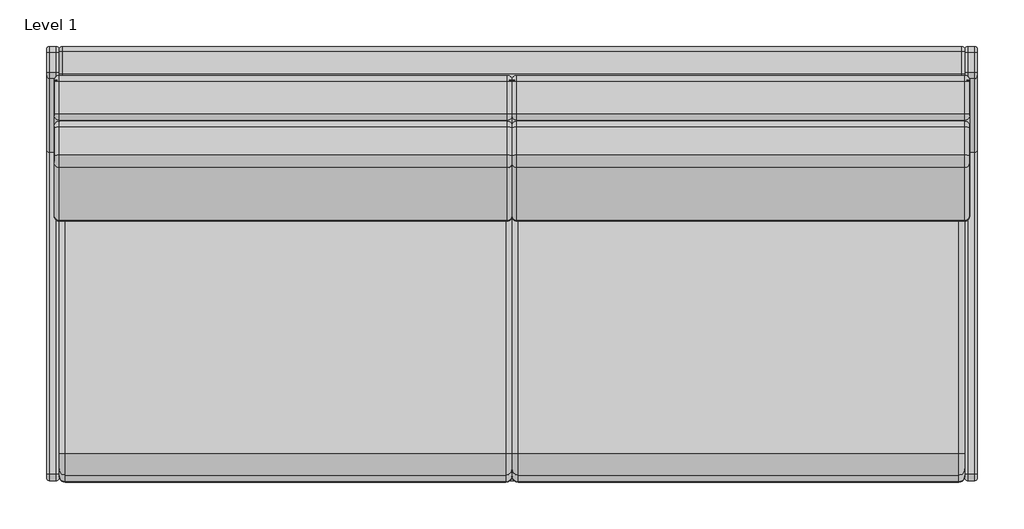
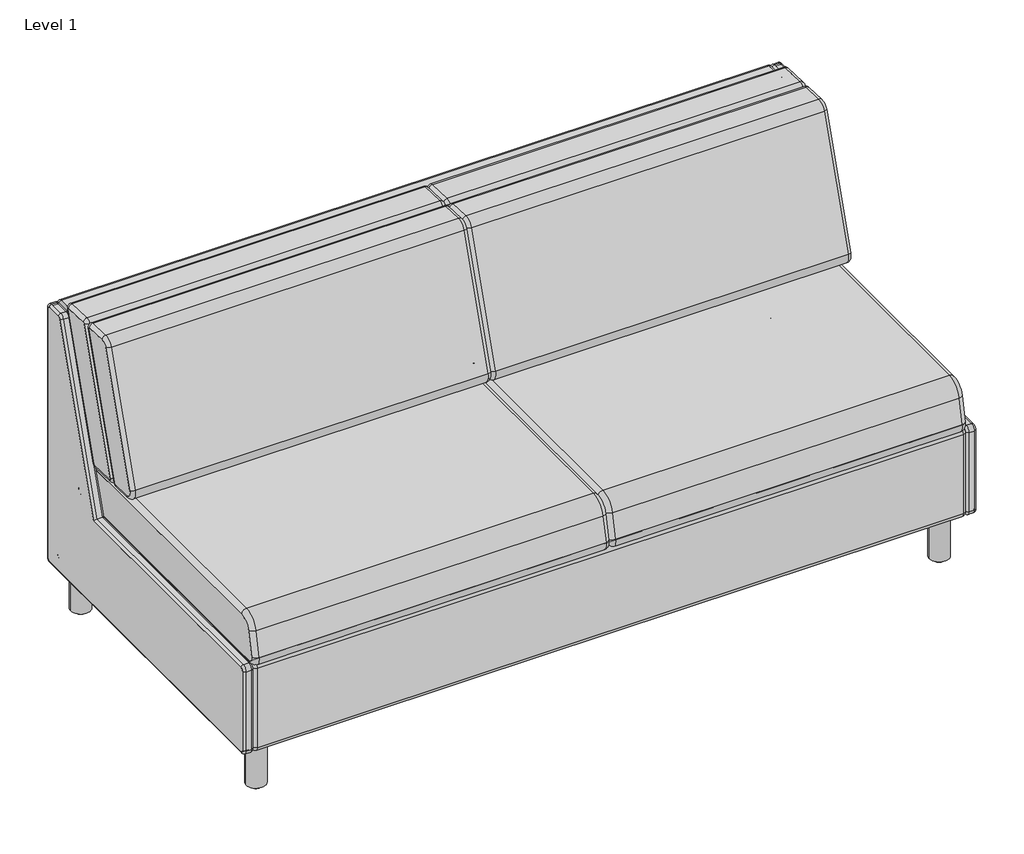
# One storey, incomplete: 1 furniture element.
"""IFC4 building model written with IfcOpenShell, lengths in millimetres."""

from ifc_helpers import new_model, si_unit, origin, place, context, project, spatial, transform, mapped, element, save
from components import furniture_d6359fc4, furniture_b6e96d69, furniture_3d70ace7, furniture_eb769623

model = new_model("IFC4")

# Units and contexts
model_context = context("Model", 3, world=origin())
ifc_project = project(units=[si_unit("LENGTHUNIT", "METRE", prefix="MILLI")], contexts=[model_context])

# Site, building, storey
site = spatial("IfcSite", under=ifc_project)
building = spatial("IfcBuilding", under=site)
storey = spatial("IfcBuildingStorey", under=building, Name="Level 1", Elevation=0.0)

# Furniture
placement = place(None, origin())
furniture_shape = furniture_d6359fc4(model_context)
furniture_2_shape = furniture_b6e96d69(model_context)
furniture_3_shape = furniture_3d70ace7(model_context)
furniture_4_shape = furniture_eb769623(model_context)
element("IfcFurniture", 1, ObjectType="Krug-Amelio-Sleep_Sofa : AME6SL74FALS2", at=placement, inside=storey, context=model_context, shape_type="MappedRepresentation", body=[
    mapped(furniture_shape, transform((3329.3477304, 2820.1593952, 0.0), x_axis=(1.0, 0.0, 0.0), y_axis=(0.0, 1.0, 0.0), z_axis=(0.0, 0.0, 1.0))),
    mapped(furniture_2_shape, transform((3329.3477304, 2820.1593952, 0.0), x_axis=(1.0, 0.0, 0.0), y_axis=(0.0, 1.0, 0.0), z_axis=(0.0, 0.0, 1.0))),
    mapped(furniture_3_shape, transform((3329.3477304, 2820.1593952, 0.0), x_axis=(1.0, 0.0, 0.0), y_axis=(0.0, 1.0, 0.0), z_axis=(0.0, 0.0, 1.0))),
    mapped(furniture_4_shape, transform((3329.3477304, 2820.1593952, 0.0), x_axis=(1.0, 0.0, 0.0), y_axis=(0.0, 1.0, 0.0), z_axis=(0.0, 0.0, 1.0))),
])

save(model, "model.ifc")
